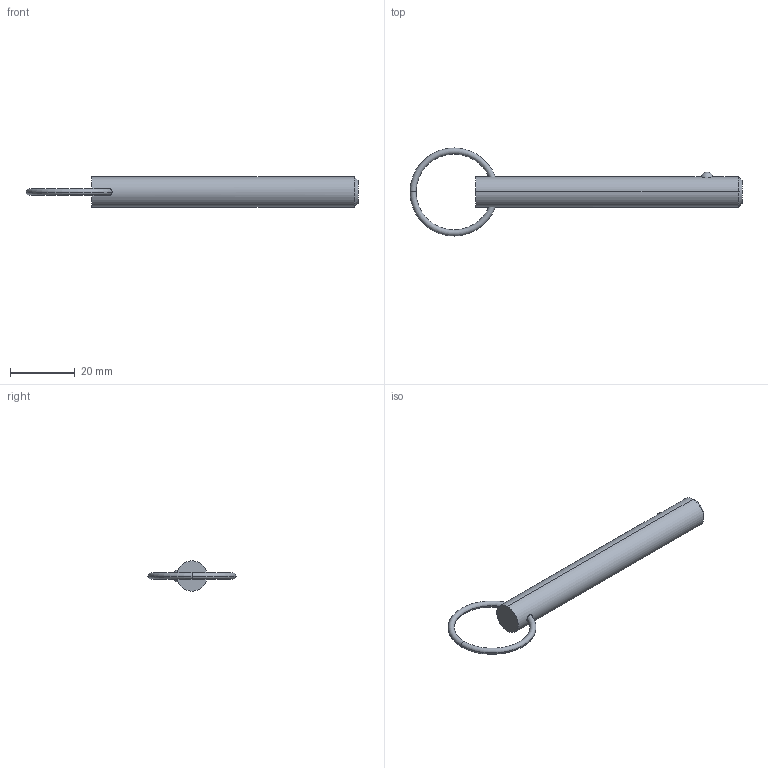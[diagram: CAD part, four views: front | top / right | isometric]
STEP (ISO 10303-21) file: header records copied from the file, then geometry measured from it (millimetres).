
FILE_DESCRIPTION (( 'STEP AP203' ), '1' );
FILE_NAME ('33012.W3725.step', '2024-11-01T14:09:48', ( '' ), ( '' ), 'SwSTEP 2.0', 'SolidWorks 2019', '' );
FILE_SCHEMA (( 'CONFIG_CONTROL_DESIGN' ));
Length unit declared in the file: millimetre
Products named in the file (3): Part1_33012.W3725; Part2_33012.W3725; 33012.W3725
Assembly tree (2 placements, depth 2):
  33012.W3725
    Part1_33012.W3725
    Part2_33012.W3725
Bounding box: 102.89 x 27.28 x 9.4 mm (x, y, z)
Volume: 5900.2 mm3; surface area: 3094.3 mm2
Topology: 2 solids, 2 shells, 16 faces, 31 edges, 18 vertices
Faces by surface type: torus 8, sphere 2, cone 2, cylinder 2, plane 2
Entity records: 849 total; most frequent: CARTESIAN_POINT 206, DIRECTION 88, ORIENTED_EDGE 62, AXIS2_PLACEMENT_3D 42, EDGE_CURVE 31, PERSON_AND_ORGANIZATION 26, CIRCLE 21, LOCAL_TIME 19
